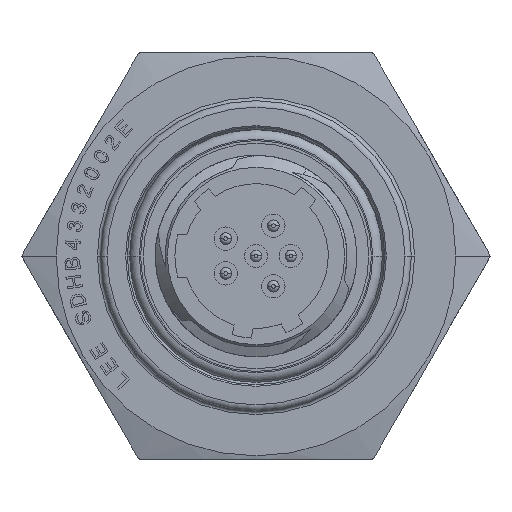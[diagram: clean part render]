
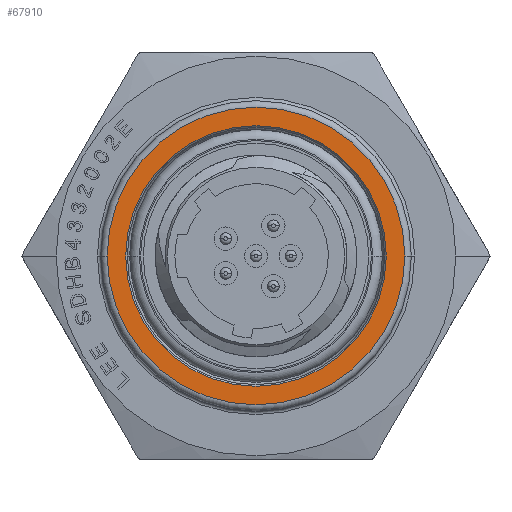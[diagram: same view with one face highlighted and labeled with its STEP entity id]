
A CAD part, left-side view. The second image highlights one B-rep face of the part: STEP entity #67910.
In plain terms, the highlighted planar face has unit normal (-1, 0, 0).
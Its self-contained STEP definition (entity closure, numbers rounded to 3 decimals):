
#67360=CARTESIAN_POINT('',(25.654,-10.185,
0.));
#67370=VERTEX_POINT('',#67360);
#67400=CARTESIAN_POINT('',(25.654,0.,0.));
#67410=DIRECTION('',(1.,0.,0.));
#67420=DIRECTION('',(0.,1.,0.));
#67430=AXIS2_PLACEMENT_3D('',#67400,#67410,#67420);
#67440=CIRCLE('',#67430,10.185);
#67450=CARTESIAN_POINT('',(25.654,10.185,0.));
#67460=VERTEX_POINT('',#67450);
#67470=EDGE_CURVE('',#67370,#67460,#67440,.T.);
#67660=CARTESIAN_POINT('',(25.654,10.909,0.));
#67670=DIRECTION('',(-1.,0.,0.));
#67680=DIRECTION('',(0.,1.,0.));
#67690=AXIS2_PLACEMENT_3D('',#67660,#67670,#67680);
#67700=PLANE('',#67690);
#67710=EDGE_CURVE('',#67460,#67370,#67440,.T.);
#67720=ORIENTED_EDGE('',*,*,#67710,.T.);
#67730=ORIENTED_EDGE('',*,*,#67470,.T.);
#67740=EDGE_LOOP('',(#67730,#67720));
#67750=FACE_BOUND('',#67740,.T.);
#67760=CARTESIAN_POINT('',(25.654,0.,0.));
#67770=DIRECTION('',(1.,0.,0.));
#67780=DIRECTION('',(0.,1.,0.));
#67790=AXIS2_PLACEMENT_3D('',#67760,#67770,#67780);
#67800=CIRCLE('',#67790,11.633);
#67810=CARTESIAN_POINT('',(25.654,11.633,0.));
#67820=VERTEX_POINT('',#67810);
#67830=CARTESIAN_POINT('',(25.654,-11.633,0.));
#67840=VERTEX_POINT('',#67830);
#67850=EDGE_CURVE('',#67820,#67840,#67800,.T.);
#67860=ORIENTED_EDGE('',*,*,#67850,.F.);
#67870=EDGE_CURVE('',#67840,#67820,#67800,.T.);
#67880=ORIENTED_EDGE('',*,*,#67870,.F.);
#67890=EDGE_LOOP('',(#67880,#67860));
#67900=FACE_OUTER_BOUND('',#67890,.T.);
#67910=ADVANCED_FACE('',(#67750,#67900),#67700,.T.);
